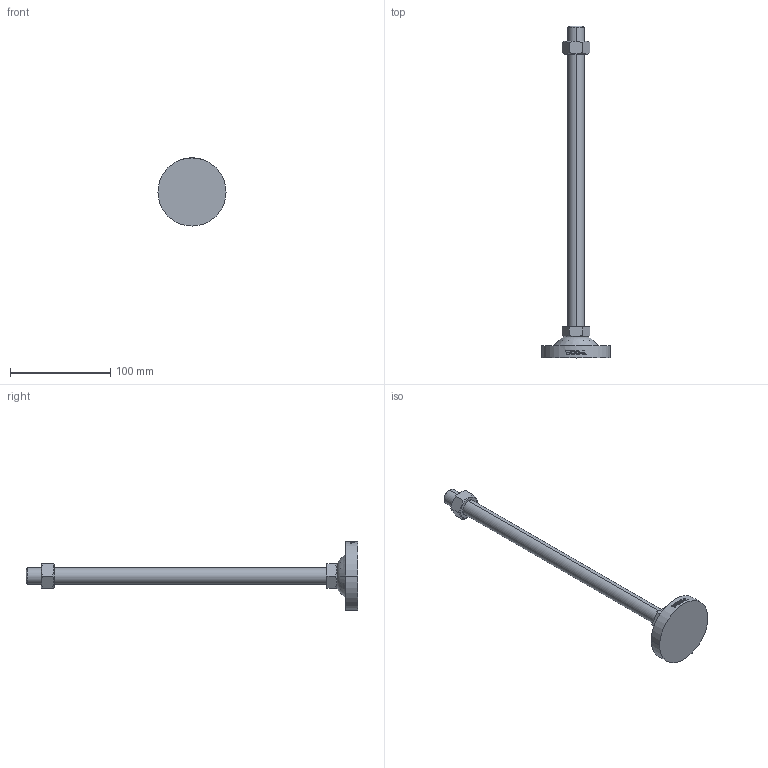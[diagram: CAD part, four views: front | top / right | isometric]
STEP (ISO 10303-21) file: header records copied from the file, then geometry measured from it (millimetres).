
FILE_DESCRIPTION (( 'STEP AP214' ), '1' );
FILE_NAME ('RB68-M16-300.step', '2021-01-18T05:51:09', ( '' ), ( '' ), 'SwSTEP 2.0', 'SolidWorks 2019', '' );
FILE_SCHEMA (( 'AUTOMOTIVE_DESIGN' ));
Length unit declared in the file: millimetre
Products named in the file (2): RB68-M16-300
Bounding box: 68 x 331 x 68 mm (x, y, z)
Volume: 117267.3 mm3; surface area: 31101.2 mm2
Topology: 2 solids, 3 shells, 128 faces, 317 edges, 206 vertices
Faces by surface type: plane 48, cylinder 42, bspline 18, cone 16, torus 4
Entity records: 5349 total; most frequent: CARTESIAN_POINT 2507, ORIENTED_EDGE 634, DIRECTION 479, EDGE_CURVE 317, VERTEX_POINT 206, AXIS2_PLACEMENT_3D 176, EDGE_LOOP 141, ADVANCED_FACE 128
